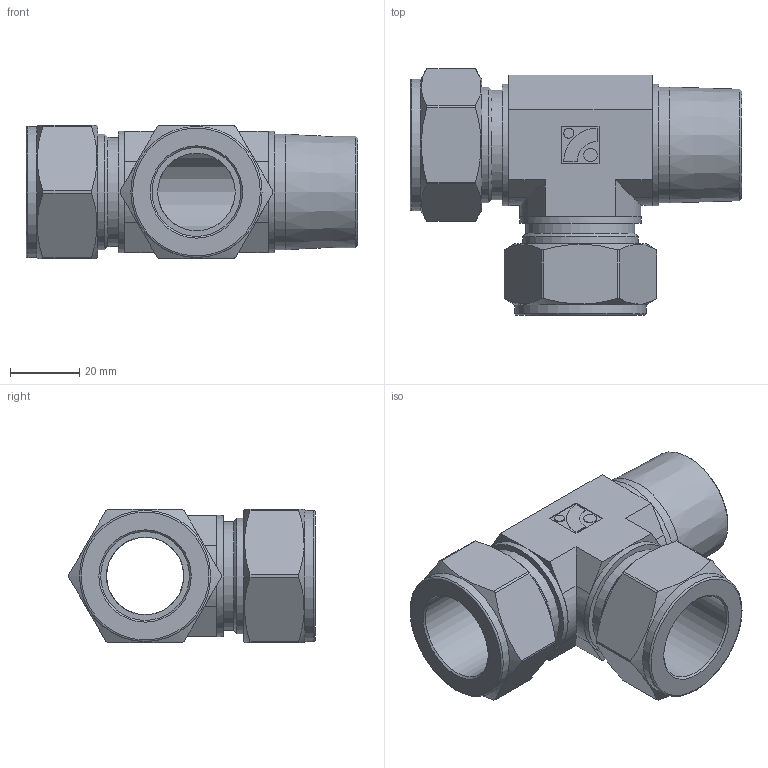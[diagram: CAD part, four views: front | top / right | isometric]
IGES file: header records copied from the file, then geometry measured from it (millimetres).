
Global section: file name: No Iges File Name specified; native system: Autodesk Inventor 2012; preprocessor: AutoDesk Inventor Iges Exporter R2012; author: 硅己绕,,1; organization: 1; date: 20150815.154906; units: millimetre
Bounding box: 95.56 x 71.06 x 38.4 mm (x, y, z)
Volume: 74691.6 mm3; surface area: 27461.5 mm2
Topology: 1 solids, 1 shells, 119 faces, 278 edges, 172 vertices
Faces by surface type: plane 72, cylinder 29, revolution 8, cone 8, torus 2
Full cylindrical faces by diameter (mm): 2.889 x1, 3.852 x1, 31.45 x2, 33.34 x2, 33.4 x1, 34.93 x3, 37.8 x2
